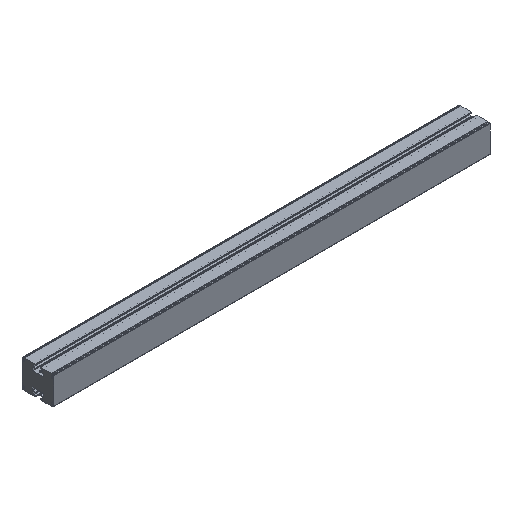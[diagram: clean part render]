
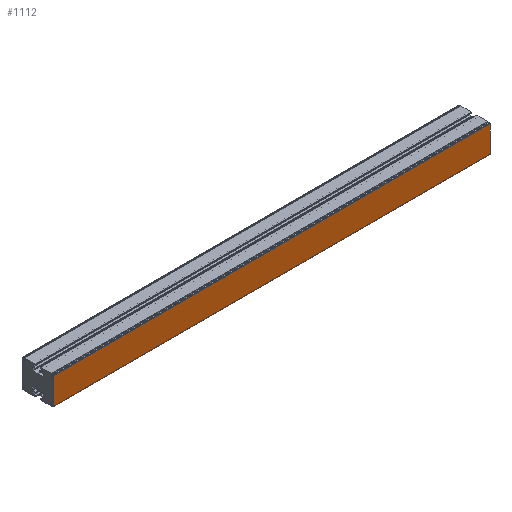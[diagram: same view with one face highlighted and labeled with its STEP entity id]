
A CAD part, isometric view. The second image highlights one B-rep face of the part: STEP entity #1112.
In plain terms, the highlighted planar face has unit normal (0, -1, 0).
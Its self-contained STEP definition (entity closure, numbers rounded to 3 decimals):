
#70 = VERTEX_POINT ( 'NONE', #1704 ) ;
#91 = DIRECTION ( 'NONE',  ( 0., 0., -1. ) ) ;
#165 = DIRECTION ( 'NONE',  ( -1., 0., 0. ) ) ;
#320 = CARTESIAN_POINT ( 'NONE',  ( 0., -36.2, -30.293 ) ) ;
#338 = ORIENTED_EDGE ( 'NONE', *, *, #2892, .F. ) ;
#436 = ORIENTED_EDGE ( 'NONE', *, *, #3230, .T. ) ;
#516 = PLANE ( 'NONE',  #2408 ) ;
#520 = CARTESIAN_POINT ( 'NONE',  ( 1000., -36.2, -30.293 ) ) ;
#556 = DIRECTION ( 'NONE',  ( 0., 1., 0. ) ) ;
#591 = EDGE_CURVE ( 'NONE', #2088, #2600, #709, .T. ) ;
#709 = LINE ( 'NONE', #2121, #1327 ) ;
#813 = DIRECTION ( 'NONE',  ( -1., 0., 0. ) ) ;
#824 = VECTOR ( 'NONE', #91, 1000. ) ;
#938 = LINE ( 'NONE', #3018, #824 ) ;
#1112 = ADVANCED_FACE ( 'NONE', ( #1560 ), #516, .F. ) ;
#1159 = LINE ( 'NONE', #2520, #2763 ) ;
#1325 = DIRECTION ( 'NONE',  ( 0., 0., 1. ) ) ;
#1327 = VECTOR ( 'NONE', #165, 1000. ) ;
#1513 = CARTESIAN_POINT ( 'NONE',  ( 1000., -36.2, 30.293 ) ) ;
#1560 = FACE_OUTER_BOUND ( 'NONE', #2907, .T. ) ;
#1704 = CARTESIAN_POINT ( 'NONE',  ( 0., -36.2, 30.293 ) ) ;
#1876 = ORIENTED_EDGE ( 'NONE', *, *, #591, .F. ) ;
#2081 = VECTOR ( 'NONE', #3017, 1000. ) ;
#2088 = VERTEX_POINT ( 'NONE', #2930 ) ;
#2121 = CARTESIAN_POINT ( 'NONE',  ( 1000., -36.2, -30.293 ) ) ;
#2343 = LINE ( 'NONE', #520, #2081 ) ;
#2408 = AXIS2_PLACEMENT_3D ( 'NONE', #2516, #556, #1325 ) ;
#2516 = CARTESIAN_POINT ( 'NONE',  ( 1000., -36.2, -30.293 ) ) ;
#2520 = CARTESIAN_POINT ( 'NONE',  ( 1000., -36.2, 30.293 ) ) ;
#2600 = VERTEX_POINT ( 'NONE', #320 ) ;
#2763 = VECTOR ( 'NONE', #813, 1000. ) ;
#2892 = EDGE_CURVE ( 'NONE', #2902, #2088, #2343, .T. ) ;
#2902 = VERTEX_POINT ( 'NONE', #1513 ) ;
#2907 = EDGE_LOOP ( 'NONE', ( #436, #1876, #338, #3195 ) ) ;
#2930 = CARTESIAN_POINT ( 'NONE',  ( 1000., -36.2, -30.293 ) ) ;
#3017 = DIRECTION ( 'NONE',  ( 0., 0., -1. ) ) ;
#3018 = CARTESIAN_POINT ( 'NONE',  ( 0., -36.2, -30.293 ) ) ;
#3181 = EDGE_CURVE ( 'NONE', #2902, #70, #1159, .T. ) ;
#3195 = ORIENTED_EDGE ( 'NONE', *, *, #3181, .T. ) ;
#3230 = EDGE_CURVE ( 'NONE', #70, #2600, #938, .T. ) ;
